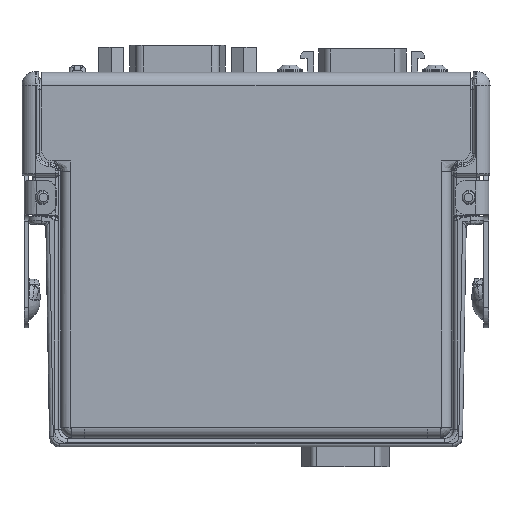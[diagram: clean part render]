
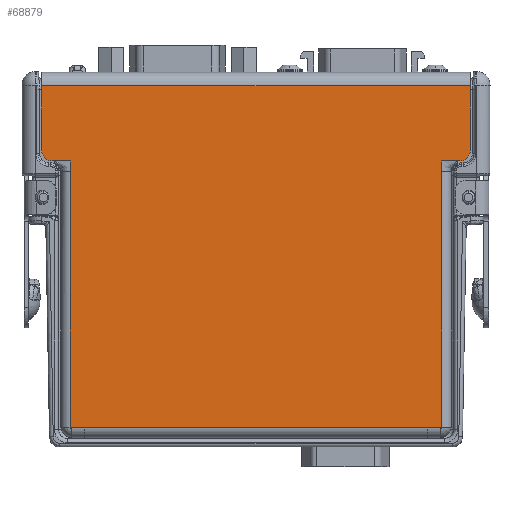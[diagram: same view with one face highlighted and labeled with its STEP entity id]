
A CAD part, left-side view. The second image highlights one B-rep face of the part: STEP entity #68879.
In plain terms, the highlighted planar face has unit normal (-1, 0, 0).
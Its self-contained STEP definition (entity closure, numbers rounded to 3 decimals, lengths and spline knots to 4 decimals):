
#5330=DIRECTION('',(0.,-1.,0.));
#5331=VECTOR('',#5330,3.179);
#5332=CARTESIAN_POINT('',(-0.4475,1.5895,2.676));
#5333=LINE('',#5332,#5331);
#25074=DIRECTION('',(0.,-1.,0.));
#25075=VECTOR('',#25074,2.543);
#25076=CARTESIAN_POINT('',(-0.4475,1.2715,0.146));
#25077=LINE('',#25076,#25075);
#25086=DIRECTION('',(0.,0.,-1.));
#25087=VECTOR('',#25086,0.476);
#25088=CARTESIAN_POINT('',(-0.4475,1.5895,2.676));
#25089=LINE('',#25088,#25087);
#25090=DIRECTION('',(0.,0.,1.));
#25091=VECTOR('',#25090,0.476);
#25092=CARTESIAN_POINT('',(-0.4475,-1.5895,2.2));
#25093=LINE('',#25092,#25091);
#25094=DIRECTION('',(0.,0.,1.));
#25095=VECTOR('',#25094,0.079);
#25096=CARTESIAN_POINT('',(-0.4475,-1.3765,2.041));
#25097=LINE('',#25096,#25095);
#25098=DIRECTION('',(0.,-1.,0.));
#25099=VECTOR('',#25098,0.105);
#25100=CARTESIAN_POINT('',(-0.4475,-1.2715,0.146));
#25101=LINE('',#25100,#25099);
#25102=DIRECTION('',(0.,-1.,0.));
#25103=VECTOR('',#25102,0.105);
#25104=CARTESIAN_POINT('',(-0.4475,1.3765,0.146));
#25105=LINE('',#25104,#25103);
#25106=DIRECTION('',(0.,0.,1.));
#25107=VECTOR('',#25106,0.079);
#25108=CARTESIAN_POINT('',(-0.4475,1.3765,2.041));
#25109=LINE('',#25108,#25107);
#25123=CARTESIAN_POINT('',(-0.4475,1.5095,2.2));
#25124=DIRECTION('',(-1.,0.,0.));
#25125=DIRECTION('',(0.,1.,0.));
#25126=AXIS2_PLACEMENT_3D('',#25123,#25124,#25125);
#25128=DIRECTION('',(0.,-1.,0.));
#25129=VECTOR('',#25128,0.133);
#25130=CARTESIAN_POINT('',(-0.4475,1.5095,2.12));
#25131=LINE('',#25130,#25129);
#25148=DIRECTION('',(0.,0.,1.));
#25149=VECTOR('',#25148,1.895);
#25150=CARTESIAN_POINT('',(-0.4475,1.3765,0.146));
#25151=LINE('',#25150,#25149);
#26436=DIRECTION('',(0.,0.,1.));
#26437=VECTOR('',#26436,1.895);
#26438=CARTESIAN_POINT('',(-0.4475,-1.3765,0.146));
#26439=LINE('',#26438,#26437);
#26471=DIRECTION('',(0.,-1.,0.));
#26472=VECTOR('',#26471,0.133);
#26473=CARTESIAN_POINT('',(-0.4475,-1.3765,2.12));
#26474=LINE('',#26473,#26472);
#26488=CARTESIAN_POINT('',(-0.4475,-1.5095,2.2));
#26489=DIRECTION('',(-1.,0.,0.));
#26490=DIRECTION('',(0.,0.,-1.));
#26491=AXIS2_PLACEMENT_3D('',#26488,#26489,#26490);
#36606=CARTESIAN_POINT('',(-0.4475,-1.5895,2.676));
#36607=VERTEX_POINT('',#36606);
#36608=CARTESIAN_POINT('',(-0.4475,1.5895,2.676));
#36609=VERTEX_POINT('',#36608);
#36638=CARTESIAN_POINT('',(-0.4475,1.2715,0.146));
#36639=CARTESIAN_POINT('',(-0.4475,-1.2715,0.146));
#36640=VERTEX_POINT('',#36638);
#36641=VERTEX_POINT('',#36639);
#36650=CARTESIAN_POINT('',(-0.4475,-1.3765,0.146));
#36651=VERTEX_POINT('',#36650);
#36662=CARTESIAN_POINT('',(-0.4475,1.3765,0.146));
#36663=VERTEX_POINT('',#36662);
#36711=CARTESIAN_POINT('',(-0.4475,1.5095,2.12));
#36713=VERTEX_POINT('',#36711);
#36716=CARTESIAN_POINT('',(-0.4475,1.5895,2.2));
#36717=VERTEX_POINT('',#36716);
#36719=CARTESIAN_POINT('',(-0.4475,-1.5895,2.2));
#36721=VERTEX_POINT('',#36719);
#36724=CARTESIAN_POINT('',(-0.4475,-1.5095,2.12));
#36725=VERTEX_POINT('',#36724);
#36754=CARTESIAN_POINT('',(-0.4475,-1.3765,2.041));
#36755=VERTEX_POINT('',#36754);
#36758=CARTESIAN_POINT('',(-0.4475,-1.3765,2.12));
#36759=VERTEX_POINT('',#36758);
#36766=CARTESIAN_POINT('',(-0.4475,1.3765,2.041));
#36767=CARTESIAN_POINT('',(-0.4475,1.3765,2.12));
#36768=VERTEX_POINT('',#36766);
#36769=VERTEX_POINT('',#36767);
#68847=CARTESIAN_POINT('',(-0.4475,0.,1.421));
#68848=DIRECTION('',(-1.,0.,0.));
#68849=DIRECTION('',(0.,1.,0.));
#68850=AXIS2_PLACEMENT_3D('',#68847,#68848,#68849);
#68851=PLANE('',#68850);
#68853=ORIENTED_EDGE('',*,*,#68852,.F.);
#68855=ORIENTED_EDGE('',*,*,#68854,.F.);
#68856=ORIENTED_EDGE('',*,*,#43456,.T.);
#68858=ORIENTED_EDGE('',*,*,#68857,.F.);
#68860=ORIENTED_EDGE('',*,*,#68859,.F.);
#68862=ORIENTED_EDGE('',*,*,#68861,.F.);
#68864=ORIENTED_EDGE('',*,*,#68863,.F.);
#68866=ORIENTED_EDGE('',*,*,#68865,.F.);
#68867=ORIENTED_EDGE('',*,*,#68837,.F.);
#68868=ORIENTED_EDGE('',*,*,#68813,.F.);
#68870=ORIENTED_EDGE('',*,*,#68869,.F.);
#68872=ORIENTED_EDGE('',*,*,#68871,.T.);
#68874=ORIENTED_EDGE('',*,*,#68873,.T.);
#68876=ORIENTED_EDGE('',*,*,#68875,.F.);
#68877=EDGE_LOOP('',(#68853,#68855,#68856,#68858,#68860,#68862,#68864,#68866,
#68867,#68868,#68870,#68872,#68874,#68876));
#68878=FACE_OUTER_BOUND('',#68877,.F.);
#68879=ADVANCED_FACE('',(#68878),#68851,.T.);
#25127=CIRCLE('',#25126,0.08);
#26492=CIRCLE('',#26491,0.08);
#43456=EDGE_CURVE('',#36609,#36607,#5333,.T.);
#68813=EDGE_CURVE('',#36640,#36641,#25077,.T.);
#68837=EDGE_CURVE('',#36641,#36651,#25101,.T.);
#68852=EDGE_CURVE('',#36717,#36713,#25127,.T.);
#68854=EDGE_CURVE('',#36609,#36717,#25089,.T.);
#68857=EDGE_CURVE('',#36721,#36607,#25093,.T.);
#68859=EDGE_CURVE('',#36725,#36721,#26492,.T.);
#68861=EDGE_CURVE('',#36759,#36725,#26474,.T.);
#68863=EDGE_CURVE('',#36755,#36759,#25097,.T.);
#68865=EDGE_CURVE('',#36651,#36755,#26439,.T.);
#68869=EDGE_CURVE('',#36663,#36640,#25105,.T.);
#68871=EDGE_CURVE('',#36663,#36768,#25151,.T.);
#68873=EDGE_CURVE('',#36768,#36769,#25109,.T.);
#68875=EDGE_CURVE('',#36713,#36769,#25131,.T.);
